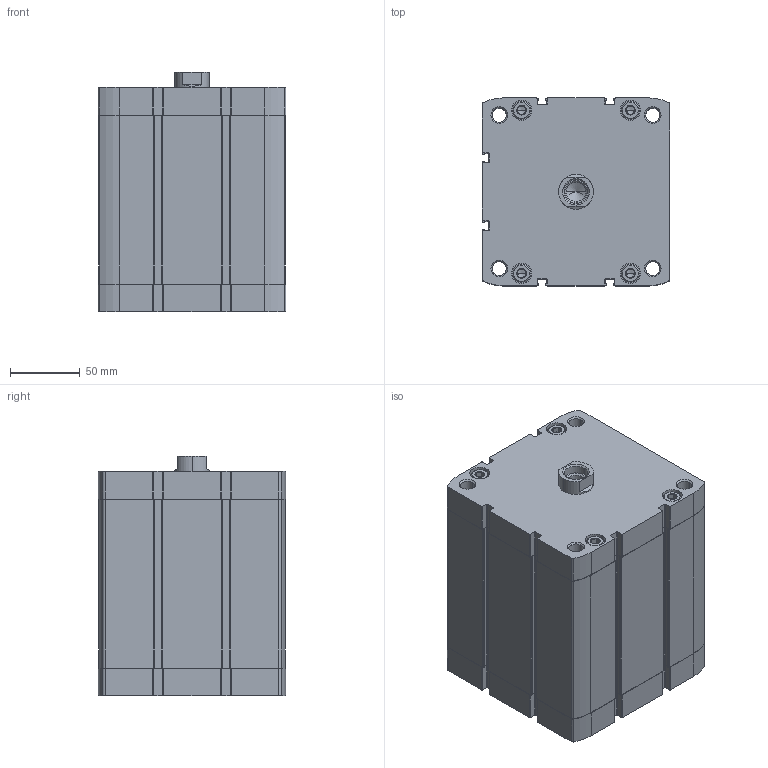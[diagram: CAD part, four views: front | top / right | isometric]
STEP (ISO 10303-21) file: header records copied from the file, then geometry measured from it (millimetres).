
FILE_DESCRIPTION (( 'STEP AP203' ), '1' );
FILE_NAME ('CCN125-80F.STEP', '2020-06-05T19:29:45', ( '' ), ( '' ), 'SwSTEP 2.0', 'SolidWorks 2019', '' );
FILE_SCHEMA (( 'CONFIG_CONTROL_DESIGN' ));
Length unit declared in the file: millimetre
Products named in the file (1): CCN125-80F
Bounding box: 134.6 x 134.6 x 172 mm (x, y, z)
Volume: 1844352.5 mm3; surface area: 276859.3 mm2
Topology: 2 solids, 2 shells, 535 faces, 1370 edges, 861 vertices
Faces by surface type: plane 267, cylinder 194, cone 74
Entity records: 17215 total; most frequent: CARTESIAN_POINT 3931, DIRECTION 2876, ORIENTED_EDGE 2704, EDGE_CURVE 1352, AXIS2_PLACEMENT_3D 1054, VERTEX_POINT 861, LINE 768, VECTOR 768
